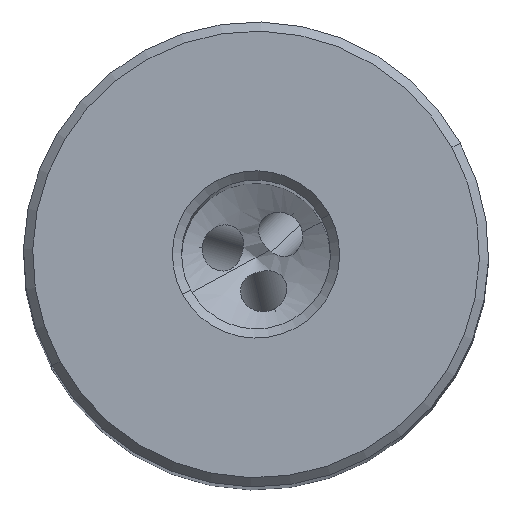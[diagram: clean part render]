
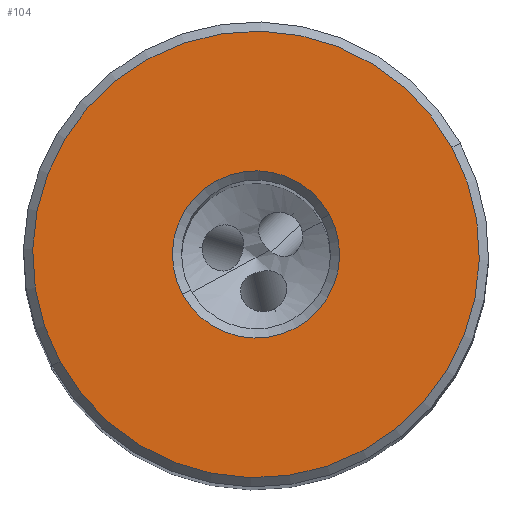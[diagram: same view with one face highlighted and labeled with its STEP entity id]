
A CAD part, top view. The second image highlights one B-rep face of the part: STEP entity #104.
In plain terms, the highlighted planar face has unit normal (0, 0, 1).
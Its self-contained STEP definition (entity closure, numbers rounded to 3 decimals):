
#62=AXIS2_PLACEMENT_3D('Circle Axis2P3D',#60,#61,$) ;
#75=AXIS2_PLACEMENT_3D('Plane Axis2P3D',#72,#73,#74) ;
#79=AXIS2_PLACEMENT_3D('Circle Axis2P3D',#77,#78,$) ;
#88=AXIS2_PLACEMENT_3D('Circle Axis2P3D',#86,#87,$) ;
#97=AXIS2_PLACEMENT_3D('Circle Axis2P3D',#95,#96,$) ;
#41=CARTESIAN_POINT('Vertex',(3.945,2.155,0.)) ;
#57=CARTESIAN_POINT('Vertex',(-3.945,-2.155,0.)) ;
#60=CARTESIAN_POINT('Axis2P3D Location',(0.,0.,0.)) ;
#72=CARTESIAN_POINT('Axis2P3D Location',(-12.005,0.,0.)) ;
#77=CARTESIAN_POINT('Axis2P3D Location',(0.,0.,0.)) ;
#81=CARTESIAN_POINT('Vertex',(10.535,5.756,0.)) ;
#83=CARTESIAN_POINT('Vertex',(-10.535,-5.756,0.)) ;
#86=CARTESIAN_POINT('Axis2P3D Location',(0.,0.,0.)) ;
#95=CARTESIAN_POINT('Axis2P3D Location',(0.,0.,0.)) ;
#61=DIRECTION('Axis2P3D Direction',(0.,0.,1.)) ;
#73=DIRECTION('Axis2P3D Direction',(0.,0.,1.)) ;
#74=DIRECTION('Axis2P3D XDirection',(1.,0.,0.)) ;
#78=DIRECTION('Axis2P3D Direction',(0.,0.,1.)) ;
#87=DIRECTION('Axis2P3D Direction',(0.,0.,1.)) ;
#96=DIRECTION('Axis2P3D Direction',(0.,0.,1.)) ;
#92=ORIENTED_EDGE('',*,*,#85,.T.) ;
#93=ORIENTED_EDGE('',*,*,#90,.T.) ;
#101=ORIENTED_EDGE('',*,*,#64,.F.) ;
#102=ORIENTED_EDGE('',*,*,#99,.F.) ;
#103=FACE_BOUND('',#100,.T.) ;
#104=ADVANCED_FACE('NO_CUT',(#94,#103),#76,.T.) ;
#63=CIRCLE('generated circle',#62,4.495) ;
#80=CIRCLE('generated circle',#79,12.005) ;
#89=CIRCLE('generated circle',#88,12.005) ;
#98=CIRCLE('generated circle',#97,4.495) ;
#64=EDGE_CURVE('',#58,#42,#63,.T.) ;
#85=EDGE_CURVE('',#82,#84,#80,.T.) ;
#90=EDGE_CURVE('',#84,#82,#89,.T.) ;
#99=EDGE_CURVE('',#42,#58,#98,.T.) ;
#91=EDGE_LOOP('',(#92,#93)) ;
#100=EDGE_LOOP('',(#101,#102)) ;
#94=FACE_OUTER_BOUND('',#91,.T.) ;
#76=PLANE('',#75) ;
#42=VERTEX_POINT('',#41) ;
#58=VERTEX_POINT('',#57) ;
#82=VERTEX_POINT('',#81) ;
#84=VERTEX_POINT('',#83) ;
